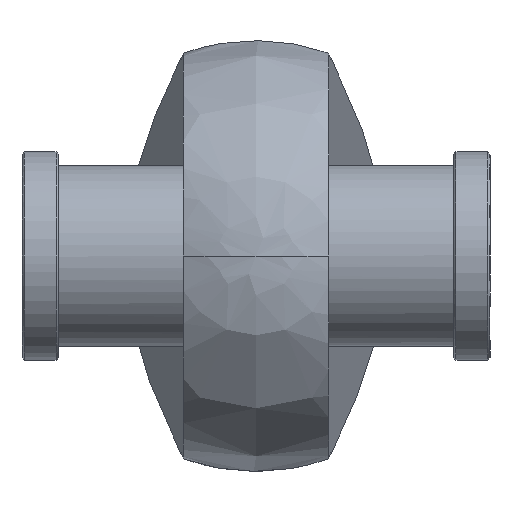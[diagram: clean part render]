
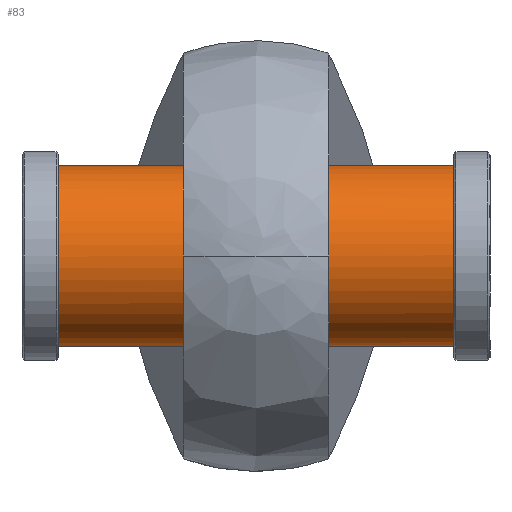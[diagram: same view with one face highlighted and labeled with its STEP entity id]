
A CAD part, left-side view. The second image highlights one B-rep face of the part: STEP entity #83.
In plain terms, the highlighted cylindrical face has radius 20 mm (diameter 40 mm), a full revolution.
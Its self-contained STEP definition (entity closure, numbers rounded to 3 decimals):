
#83=ADVANCED_FACE('',(#157),#1214,.T.);
#157=FACE_OUTER_BOUND('',#238,.T.);
#238=EDGE_LOOP('',(#506,#507,#508,#509));
#506=ORIENTED_EDGE('',*,*,#774,.T.);
#507=ORIENTED_EDGE('',*,*,#776,.T.);
#508=ORIENTED_EDGE('',*,*,#775,.T.);
#509=ORIENTED_EDGE('',*,*,#776,.F.);
#774=EDGE_CURVE('',#1128,#1128,#983,.T.);
#775=EDGE_CURVE('',#1129,#1129,#984,.T.);
#776=EDGE_CURVE('',#1128,#1129,#897,.T.);
#897=B_SPLINE_CURVE_WITH_KNOTS('',1,(#2248,#2249),.UNSPECIFIED.,.F.,.F.,
(2,2),(8.841,96.053),.UNSPECIFIED.);
#983=(
BOUNDED_CURVE()
B_SPLINE_CURVE(2,(#2230,#2231,#2232,#2233,#2234,#2235,#2236,#2237,#2238),
 .UNSPECIFIED.,.T.,.F.)
B_SPLINE_CURVE_WITH_KNOTS((3,2,2,2,3),(0.,31.416,62.832,
94.248,125.664),.UNSPECIFIED.)
CURVE()
GEOMETRIC_REPRESENTATION_ITEM()
RATIONAL_B_SPLINE_CURVE((1.,0.707,1.,0.707,1.,0.707,
1.,0.707,1.))
REPRESENTATION_ITEM('')
);
#984=(
BOUNDED_CURVE()
B_SPLINE_CURVE(2,(#2239,#2240,#2241,#2242,#2243,#2244,#2245,#2246,#2247),
 .UNSPECIFIED.,.T.,.F.)
B_SPLINE_CURVE_WITH_KNOTS((3,2,2,2,3),(0.,31.416,62.832,
94.248,125.664),.UNSPECIFIED.)
CURVE()
GEOMETRIC_REPRESENTATION_ITEM()
RATIONAL_B_SPLINE_CURVE((1.,0.707,1.,0.707,1.,0.707,
1.,0.707,1.))
REPRESENTATION_ITEM('')
);
#1128=VERTEX_POINT('',#2182);
#1129=VERTEX_POINT('',#2183);
#1214=CYLINDRICAL_SURFACE('',#1366,20.);
#1366=AXIS2_PLACEMENT_3D('',#2172,#1412,$);
#1412=DIRECTION('',(0.,-1.,0.));
#2172=CARTESIAN_POINT('',(0.,0.,0.));
#2182=CARTESIAN_POINT('',(20.,43.606,0.));
#2183=CARTESIAN_POINT('',(20.,-43.606,0.));
#2230=CARTESIAN_POINT('',(20.,43.606,0.));
#2231=CARTESIAN_POINT('',(20.,43.606,20.));
#2232=CARTESIAN_POINT('',(0.,43.606,20.));
#2233=CARTESIAN_POINT('',(-20.,43.606,20.));
#2234=CARTESIAN_POINT('',(-20.,43.606,0.));
#2235=CARTESIAN_POINT('',(-20.,43.606,-20.));
#2236=CARTESIAN_POINT('',(0.,43.606,-20.));
#2237=CARTESIAN_POINT('',(20.,43.606,-20.));
#2238=CARTESIAN_POINT('',(20.,43.606,0.));
#2239=CARTESIAN_POINT('',(20.,-43.606,0.));
#2240=CARTESIAN_POINT('',(20.,-43.606,-20.));
#2241=CARTESIAN_POINT('',(0.,-43.606,-20.));
#2242=CARTESIAN_POINT('',(-20.,-43.606,-20.));
#2243=CARTESIAN_POINT('',(-20.,-43.606,0.));
#2244=CARTESIAN_POINT('',(-20.,-43.606,20.));
#2245=CARTESIAN_POINT('',(0.,-43.606,20.));
#2246=CARTESIAN_POINT('',(20.,-43.606,20.));
#2247=CARTESIAN_POINT('',(20.,-43.606,0.));
#2248=CARTESIAN_POINT('',(20.,43.606,0.));
#2249=CARTESIAN_POINT('',(20.,-43.606,0.));
